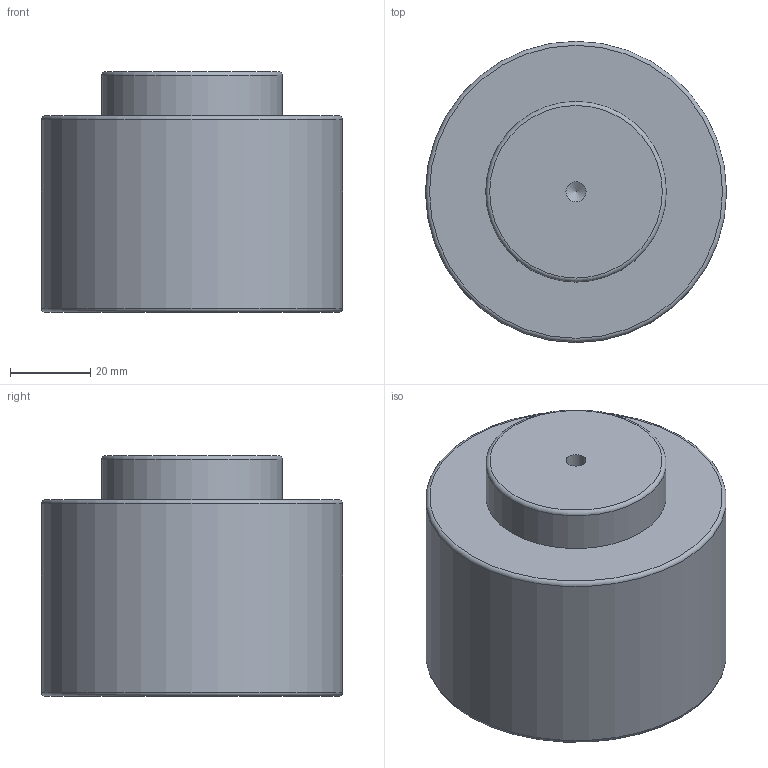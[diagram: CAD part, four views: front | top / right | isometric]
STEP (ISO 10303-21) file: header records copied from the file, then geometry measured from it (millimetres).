
FILE_DESCRIPTION(/* description */ (''),/* implementation_level */ '2;1');
FILE_NAME(/* name */ 'NV5-SMLX.75x10.stp',/* time_stamp */ '2018-08-31T16:08:30+02:00',/* author */ (''),/* organization */ (''),/* preprocessor_version */ 'ST-DEVELOPER v16',/* originating_system */ 'SIEMENS PLM Software NX 10.0',/* authorisation */ '');
FILE_SCHEMA (('AUTOMOTIVE_DESIGN { 1 0 10303 214 3 1 1 1 }'));
Length unit declared in the file: millimetre
Products named in the file (1): NV5-SMLX.75x10
Bounding box: 75 x 75 x 60 mm (x, y, z)
Volume: 231861.3 mm3; surface area: 22509 mm2
Topology: 1 solids, 1 shells, 12 faces, 24 edges, 15 vertices
Faces by surface type: cylinder 4, torus 3, plane 3, cone 2
Full cylindrical faces by diameter (mm): 5 x1, 10.3 x1, 45 x1, 75 x1
Entity records: 266 total; most frequent: DIRECTION 48, CARTESIAN_POINT 37, FACE_BOUND 24, AXIS2_PLACEMENT_3D 24, EDGE_LOOP 22, ORIENTED_EDGE 22, VERTEX_POINT 13, ADVANCED_FACE 12
